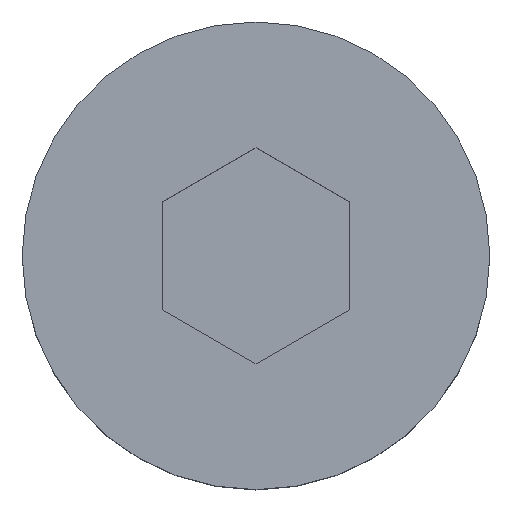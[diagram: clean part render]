
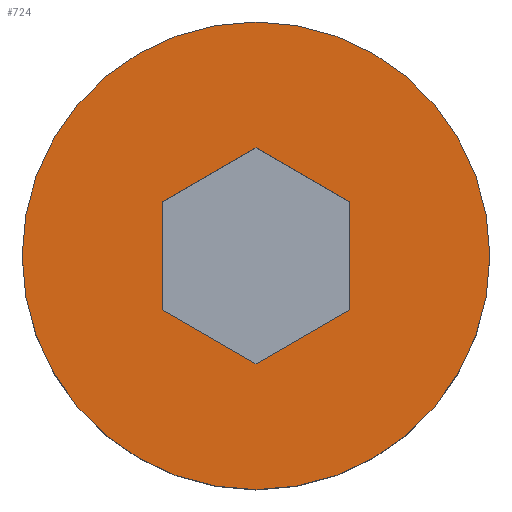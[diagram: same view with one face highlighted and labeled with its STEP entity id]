
A CAD part, top view. The second image highlights one B-rep face of the part: STEP entity #724.
In plain terms, the highlighted planar face has unit normal (0, 0, 1).
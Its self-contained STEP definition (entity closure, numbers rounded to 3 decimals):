
#40 = DIRECTION ( 'NONE',  ( 1., 0., 0. ) ) ;
#44 = VERTEX_POINT ( 'NONE', #1155 ) ;
#100 = CARTESIAN_POINT ( 'NONE',  ( 0., 0., 8. ) ) ;
#101 = VERTEX_POINT ( 'NONE', #589 ) ;
#132 = DIRECTION ( 'NONE',  ( 0., 1., 0. ) ) ;
#156 = LINE ( 'NONE', #1014, #725 ) ;
#159 = VERTEX_POINT ( 'NONE', #431 ) ;
#179 = VERTEX_POINT ( 'NONE', #476 ) ;
#196 = EDGE_CURVE ( 'NONE', #179, #159, #889, .T. ) ;
#199 = EDGE_CURVE ( 'NONE', #1061, #179, #885, .T. ) ;
#207 = LINE ( 'NONE', #984, #709 ) ;
#240 = DIRECTION ( 'NONE',  ( 0., 0., 1. ) ) ;
#297 = VERTEX_POINT ( 'NONE', #722 ) ;
#336 = CARTESIAN_POINT ( 'NONE',  ( 5.5, -7.794, 8. ) ) ;
#338 = DIRECTION ( 'NONE',  ( 0., -1., 0. ) ) ;
#345 = DIRECTION ( 'NONE',  ( 0.866, -0.5, 0. ) ) ;
#431 = CARTESIAN_POINT ( 'NONE',  ( 0., -4.619, 8. ) ) ;
#468 = EDGE_CURVE ( 'NONE', #101, #937, #1165, .T. ) ;
#476 = CARTESIAN_POINT ( 'NONE',  ( -4., -2.309, 8. ) ) ;
#522 = EDGE_CURVE ( 'NONE', #937, #101, #971, .T. ) ;
#523 = DIRECTION ( 'NONE',  ( -1., 0., 0. ) ) ;
#530 = DIRECTION ( 'NONE',  ( 0., 0., -1. ) ) ;
#534 = CARTESIAN_POINT ( 'NONE',  ( 10., 0., 8. ) ) ;
#544 = EDGE_CURVE ( 'NONE', #44, #1061, #156, .T. ) ;
#546 = EDGE_CURVE ( 'NONE', #297, #44, #207, .T. ) ;
#557 = ORIENTED_EDGE ( 'NONE', *, *, #546, .F. ) ;
#563 = EDGE_CURVE ( 'NONE', #848, #297, #1159, .T. ) ;
#572 = EDGE_CURVE ( 'NONE', #159, #848, #1094, .T. ) ;
#589 = CARTESIAN_POINT ( 'NONE',  ( 10., 0., 8. ) ) ;
#641 = PLANE ( 'NONE',  #755 ) ;
#661 = ORIENTED_EDGE ( 'NONE', *, *, #199, .F. ) ;
#709 = VECTOR ( 'NONE', #976, 1000. ) ;
#722 = CARTESIAN_POINT ( 'NONE',  ( 4., 2.309, 8. ) ) ;
#723 = DIRECTION ( 'NONE',  ( 0.866, 0.5, 0. ) ) ;
#724 = ADVANCED_FACE ( 'NONE', ( #1063, #1104 ), #641, .F. ) ;
#725 = VECTOR ( 'NONE', #1072, 1000. ) ;
#755 = AXIS2_PLACEMENT_3D ( 'NONE', #534, #530, #523 ) ;
#800 = ORIENTED_EDGE ( 'NONE', *, *, #522, .T. ) ;
#803 = ORIENTED_EDGE ( 'NONE', *, *, #468, .T. ) ;
#827 = CARTESIAN_POINT ( 'NONE',  ( 9.5, 0.866, 8. ) ) ;
#836 = AXIS2_PLACEMENT_3D ( 'NONE', #1003, #998, #995 ) ;
#848 = VERTEX_POINT ( 'NONE', #881 ) ;
#850 = ORIENTED_EDGE ( 'NONE', *, *, #544, .F. ) ;
#854 = AXIS2_PLACEMENT_3D ( 'NONE', #100, #240, #40 ) ;
#858 = VECTOR ( 'NONE', #338, 1000. ) ;
#871 = VECTOR ( 'NONE', #345, 1000. ) ;
#872 = ORIENTED_EDGE ( 'NONE', *, *, #572, .F. ) ;
#874 = ORIENTED_EDGE ( 'NONE', *, *, #563, .F. ) ;
#881 = CARTESIAN_POINT ( 'NONE',  ( 4., -2.309, 8. ) ) ;
#882 = CARTESIAN_POINT ( 'NONE',  ( 4., 0., 8. ) ) ;
#885 = LINE ( 'NONE', #1029, #858 ) ;
#889 = LINE ( 'NONE', #336, #871 ) ;
#892 = CARTESIAN_POINT ( 'NONE',  ( -10., 0., 8. ) ) ;
#905 = ORIENTED_EDGE ( 'NONE', *, *, #196, .F. ) ;
#937 = VERTEX_POINT ( 'NONE', #892 ) ;
#971 = CIRCLE ( 'NONE', #836, 10. ) ;
#976 = DIRECTION ( 'NONE',  ( -0.866, 0.5, 0. ) ) ;
#984 = CARTESIAN_POINT ( 'NONE',  ( 9.5, -0.866, 8. ) ) ;
#995 = DIRECTION ( 'NONE',  ( 1., 0., 0. ) ) ;
#998 = DIRECTION ( 'NONE',  ( 0., 0., 1. ) ) ;
#1003 = CARTESIAN_POINT ( 'NONE',  ( 0., 0., 8. ) ) ;
#1014 = CARTESIAN_POINT ( 'NONE',  ( 5.5, 7.794, 8. ) ) ;
#1019 = EDGE_LOOP ( 'NONE', ( #850, #557, #874, #872, #905, #661 ) ) ;
#1029 = CARTESIAN_POINT ( 'NONE',  ( -4., 0., 8. ) ) ;
#1054 = CARTESIAN_POINT ( 'NONE',  ( -4., 2.309, 8. ) ) ;
#1059 = EDGE_LOOP ( 'NONE', ( #803, #800 ) ) ;
#1061 = VERTEX_POINT ( 'NONE', #1054 ) ;
#1063 = FACE_OUTER_BOUND ( 'NONE', #1059, .T. ) ;
#1072 = DIRECTION ( 'NONE',  ( -0.866, -0.5, 0. ) ) ;
#1082 = VECTOR ( 'NONE', #723, 1000. ) ;
#1094 = LINE ( 'NONE', #827, #1082 ) ;
#1104 = FACE_BOUND ( 'NONE', #1019, .T. ) ;
#1118 = VECTOR ( 'NONE', #132, 1000. ) ;
#1155 = CARTESIAN_POINT ( 'NONE',  ( 0., 4.619, 8. ) ) ;
#1159 = LINE ( 'NONE', #882, #1118 ) ;
#1165 = CIRCLE ( 'NONE', #854, 10. ) ;
